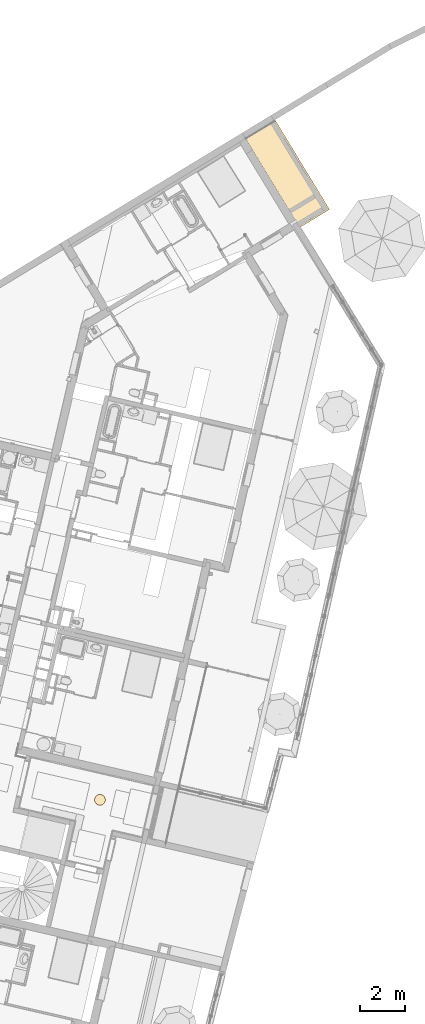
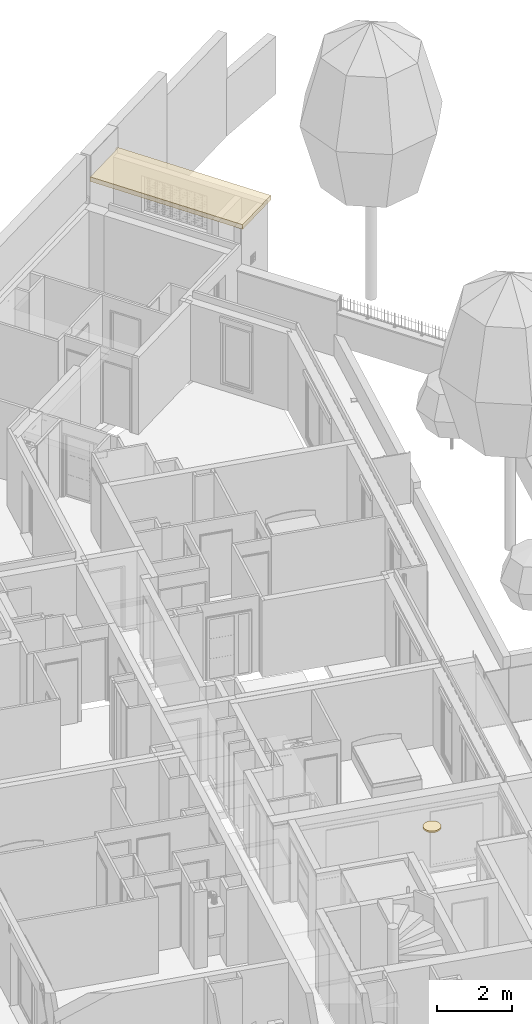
# One storey, part 78 of 119: 2 coverings.
"""IFC2X3 building model written with IfcOpenShell, lengths in metres."""

from ifc_helpers import new_model, entity, si_unit, converted_unit, derived_unit, money_unit, direction, frame, origin_with_axes, place, context, subcontext, project, spatial, faceted_brep, material, type_object, element, save


model = new_model("IFC2X3")

# Units and contexts
model_context = context("Model", 3, precision=1e-05, world=origin_with_axes(), true_north=direction((0.0, 1.0)))
body_context = subcontext(model_context, "Body", "Model", "MODEL_VIEW")
ifc_project = project(units=[si_unit("LENGTHUNIT", "METRE"), si_unit("AREAUNIT", "SQUARE_METRE"), si_unit("VOLUMEUNIT", "CUBIC_METRE"), converted_unit("PLANEANGLEUNIT", "DEGREE", entity("IfcPlaneAngleMeasure", 0.0174532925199), si_unit("PLANEANGLEUNIT", "RADIAN"), dimensions=[0, 0, 0, 0, 0, 0, 0]), si_unit("SOLIDANGLEUNIT", "STERADIAN"), money_unit("EUR"), converted_unit("TIMEUNIT", "Year", entity("IfcTimeMeasure", 31556926.0), si_unit("TIMEUNIT", "SECOND"), dimensions=[0, 0, 1, 0, 0, 0, 0]), si_unit("MASSUNIT", "GRAM", prefix="KILO"), si_unit("THERMODYNAMICTEMPERATUREUNIT", "DEGREE_CELSIUS"), si_unit("LUMINOUSINTENSITYUNIT", "LUMEN"), si_unit("ENERGYUNIT", "JOULE", prefix="MEGA"), derived_unit("THERMALCONDUCTANCEUNIT", [(si_unit("POWERUNIT", "WATT"), 1), (si_unit("LENGTHUNIT", "METRE"), -1), (si_unit("THERMODYNAMICTEMPERATUREUNIT", "KELVIN"), -1)]), derived_unit("SPECIFICHEATCAPACITYUNIT", [(si_unit("ENERGYUNIT", "JOULE"), 1), (si_unit("MASSUNIT", "GRAM", prefix="KILO"), -1), (si_unit("THERMODYNAMICTEMPERATUREUNIT", "KELVIN"), -1)]), derived_unit("MASSDENSITYUNIT", [(si_unit("MASSUNIT", "GRAM", prefix="KILO"), 1), (si_unit("VOLUMEUNIT", "CUBIC_METRE"), -1)])], contexts=[model_context])

# Site, building, storey
site_placement = place(None, origin_with_axes())
site = spatial("IfcSite", under=ifc_project, at=site_placement, Name="Site", CompositionType="ELEMENT")
building_placement = place(site_placement, origin_with_axes())
building = spatial("IfcBuilding", under=site, at=building_placement, Name="Bâtiment", CompositionType="ELEMENT")
storey_placement = place(building_placement, origin_with_axes())
storey = spatial("IfcBuildingStorey", under=building, at=storey_placement, Name="Rez-de-chaussée", CompositionType="ELEMENT", Elevation=0.0)

# Coverings
covering_type_1 = type_object("IfcCoveringType", Name="Cylindre 23", PredefinedType="USERDEFINED")
covering_1_placement = place(storey_placement, frame((-6.0357910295, -3.73099942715, 2.327), z_axis=(0.0, 0.0, 1.0), x_axis=(-0.97438734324, 0.224876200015, 0.0)))
element("IfcCovering", 1, at=covering_1_placement, inside=storey, type_object=covering_type_1, Name="MOB-004", ObjectType="MOLDING", PredefinedType="USERDEFINED", context=body_context, shape_type="Brep", body=[
    faceted_brep([(-0.238815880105, -0.0421096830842, 0.0), (-0.238815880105, -0.0421096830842, 0.05), (-0.2425, 0.0, 0.05), (-0.2425, 0.0, 0.0), (-0.227875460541, -0.0829398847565, 0.0), (-0.227875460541, -0.0829398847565, 0.05), (-0.210011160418, -0.12125, 0.05), (-0.185765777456, -0.155875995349, 0.05), (-0.155875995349, -0.185765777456, 0.05), (-0.12125, -0.210011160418, 0.05), (-0.0829398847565, -0.227875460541, 0.05), (-0.0421096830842, -0.238815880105, 0.05), (0.0, -0.2425, 0.05), (0.0421096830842, -0.238815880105, 0.05), (0.0829398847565, -0.227875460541, 0.05), (0.12125, -0.210011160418, 0.05), (0.155875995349, -0.185765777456, 0.05), (0.185765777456, -0.155875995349, 0.05), (0.210011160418, -0.12125, 0.05), (0.227875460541, -0.0829398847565, 0.05), (0.238815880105, -0.0421096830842, 0.05), (0.2425, 0.0, 0.05), (0.238815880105, 0.0421096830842, 0.05), (0.227875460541, 0.0829398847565, 0.05), (0.210011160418, 0.12125, 0.05), (0.185765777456, 0.155875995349, 0.05), (0.155875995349, 0.185765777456, 0.05), (0.12125, 0.210011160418, 0.05), (0.0829398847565, 0.227875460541, 0.05), (0.0421096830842, 0.238815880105, 0.05), (0.0, 0.2425, 0.05), (-0.0421096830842, 0.238815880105, 0.05), (-0.0829398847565, 0.227875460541, 0.05), (-0.12125, 0.210011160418, 0.05), (-0.155875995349, 0.185765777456, 0.05), (-0.185765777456, 0.155875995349, 0.05), (-0.210011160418, 0.12125, 0.05), (-0.227875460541, 0.0829398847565, 0.05), (-0.238815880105, 0.0421096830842, 0.05), (-0.238815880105, 0.0421096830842, 0.0), (-0.227875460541, 0.0829398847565, 0.0), (-0.210011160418, 0.12125, 0.0), (-0.185765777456, 0.155875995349, 0.0), (-0.155875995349, 0.185765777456, 0.0), (-0.12125, 0.210011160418, 0.0), (-0.0829398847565, 0.227875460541, 0.0), (-0.0421096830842, 0.238815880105, 0.0), (0.0, 0.2425, 0.0), (0.0421096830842, 0.238815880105, 0.0), (0.0829398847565, 0.227875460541, 0.0), (0.12125, 0.210011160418, 0.0), (0.155875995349, 0.185765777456, 0.0), (0.185765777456, 0.155875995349, 0.0), (0.210011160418, 0.12125, 0.0), (0.227875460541, 0.0829398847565, 0.0), (0.238815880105, 0.0421096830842, 0.0), (0.2425, 0.0, 0.0), (0.238815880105, -0.0421096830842, 0.0), (0.227875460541, -0.0829398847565, 0.0), (0.210011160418, -0.12125, 0.0), (0.185765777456, -0.155875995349, 0.0), (0.155875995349, -0.185765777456, 0.0), (0.12125, -0.210011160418, 0.0), (0.0829398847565, -0.227875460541, 0.0), (0.0421096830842, -0.238815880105, 0.0), (0.0, -0.2425, 0.0), (-0.0421096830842, -0.238815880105, 0.0), (-0.0829398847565, -0.227875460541, 0.0), (-0.12125, -0.210011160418, 0.0), (-0.155875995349, -0.185765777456, 0.0), (-0.185765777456, -0.155875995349, 0.0), (-0.210011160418, -0.12125, 0.0)], [[[0, 1, 2, 3]], [[4, 5, 1, 0]], [[1, 5, 6, 7, 8, 9, 10, 11, 12, 13, 14, 15, 16, 17, 18, 19, 20, 21, 22, 23, 24, 25, 26, 27, 28, 29, 30, 31, 32, 33, 34, 35, 36, 37, 38, 2]], [[3, 2, 38, 39]], [[0, 3, 39, 40, 41, 42, 43, 44, 45, 46, 47, 48, 49, 50, 51, 52, 53, 54, 55, 56, 57, 58, 59, 60, 61, 62, 63, 64, 65, 66, 67, 68, 69, 70, 71, 4]], [[71, 6, 5, 4]], [[70, 7, 6, 71]], [[69, 8, 7, 70]], [[68, 9, 8, 69]], [[67, 10, 9, 68]], [[66, 11, 10, 67]], [[65, 12, 11, 66]], [[64, 13, 12, 65]], [[63, 14, 13, 64]], [[62, 15, 14, 63]], [[61, 16, 15, 62]], [[60, 17, 16, 61]], [[59, 18, 17, 60]], [[58, 19, 18, 59]], [[57, 20, 19, 58]], [[56, 21, 20, 57]], [[55, 22, 21, 56]], [[54, 23, 22, 55]], [[53, 24, 23, 54]], [[52, 25, 24, 53]], [[51, 26, 25, 52]], [[50, 27, 26, 51]], [[49, 28, 27, 50]], [[48, 29, 28, 49]], [[47, 30, 29, 48]], [[46, 31, 30, 47]], [[45, 32, 31, 46]], [[44, 33, 32, 45]], [[43, 34, 33, 44]], [[42, 35, 34, 43]], [[41, 36, 35, 42]], [[40, 37, 36, 41]], [[39, 38, 37, 40]]]),
])
ifc_material = material(Name="Béton")
covering_type_2 = type_object("IfcCoveringType", Name="Béton 150", PredefinedType="CEILING")
covering_2_placement = place(storey_placement, frame((0.484649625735, 25.8852650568, 3.37), z_axis=(0.0, 0.0, 1.0), x_axis=(1.0, 0.0, 0.0)))
element("IfcCovering", 2, at=covering_2_placement, inside=storey, type_object=covering_type_2, material=ifc_material, Name="Dalle_004", PredefinedType="CEILING", context=body_context, shape_type="Brep", body=[
    faceted_brep([(2.42034038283, -3.98215424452, 0.0), (0.0, 0.0, 0.0), (0.0, 0.0, -0.15), (2.42034038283, -3.98215424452, -0.15), (1.26865808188, 0.829597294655, 0.0), (1.29462739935, 0.786870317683, 0.0), (3.7576947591, -3.16931460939, 0.0), (1.31138505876, 0.85556661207, 0.0), (1.29462739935, 0.786870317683, -0.15), (3.7576947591, -3.16931460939, -0.15), (1.26865808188, 0.829597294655, -0.15), (1.31138505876, 0.85556661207, -0.15)], [[[0, 1, 2, 3]], [[4, 5, 1, 0, 6, 7]], [[1, 5, 8, 2]], [[9, 3, 2, 8, 10, 11]], [[6, 0, 3, 9]], [[5, 4, 10, 8]], [[7, 6, 9, 11]], [[4, 7, 11, 10]]]),
])

save(model, "model.ifc")
